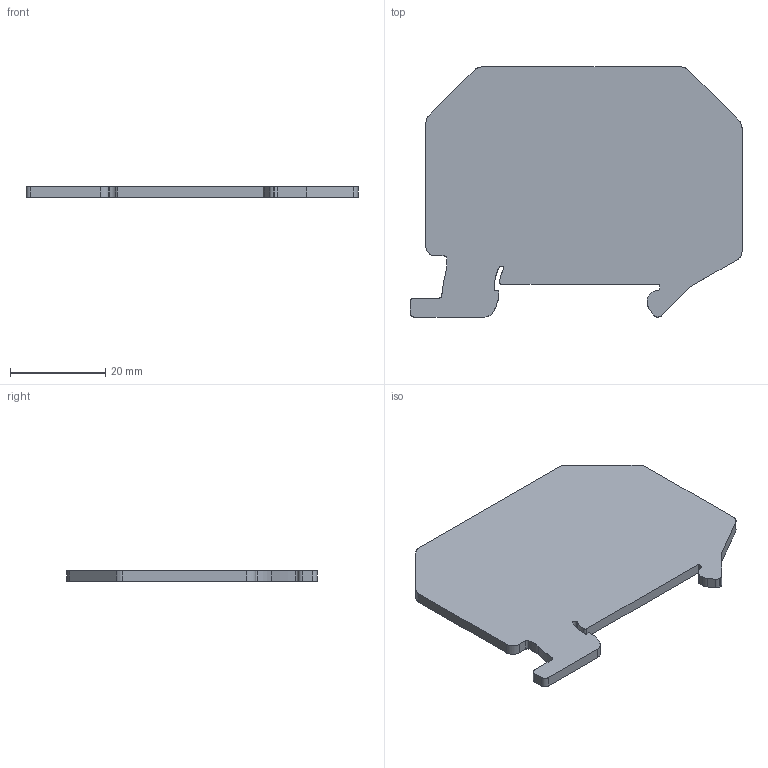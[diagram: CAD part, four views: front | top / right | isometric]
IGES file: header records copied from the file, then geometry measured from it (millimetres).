
Global section: file name: 3047196_atp_ut_quattro_select.igs; native system: OneSpace Designer 3D IGES; preprocessor: 12.01C  26-Mar-2004; date: 20050302.091633; units: millimetre
Bounding box: 69.75 x 52.55 x 2.2 mm (x, y, z)
Surface area: 6527.3 mm2 (no closed solid volume)
Topology: 0 solids, 0 shells, 51 faces, 408 edges, 408 vertices
Faces by surface type: bspline 51
